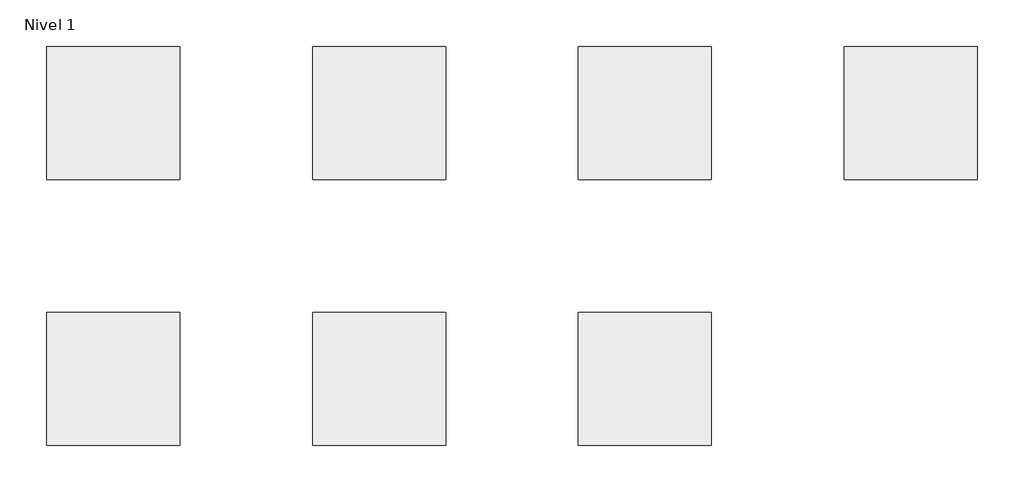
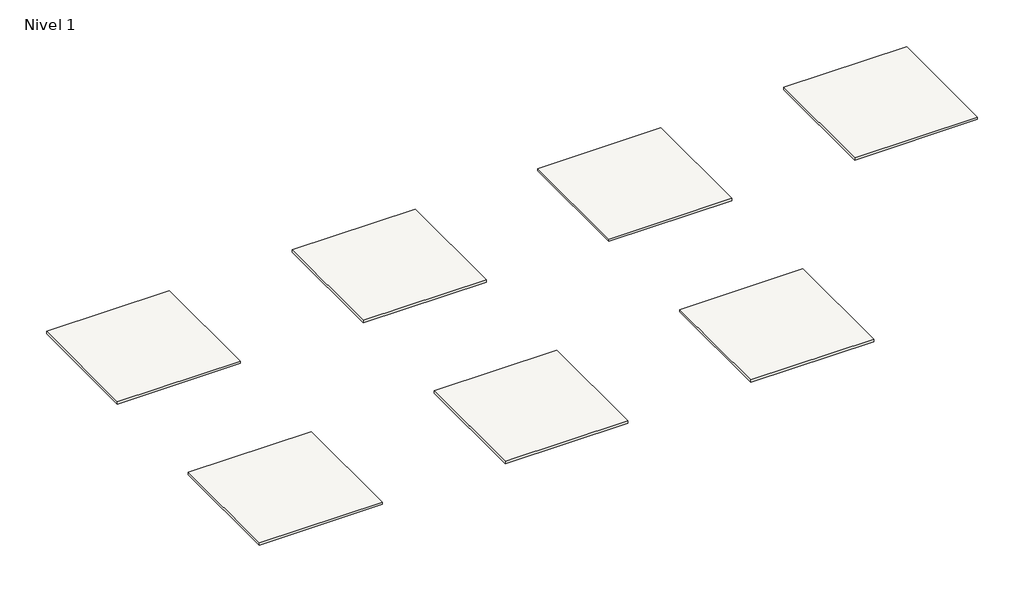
# One storey: 7 slabs.
"""IFC4 building model written with IfcOpenShell, lengths in millimetres."""

from ifc_helpers import new_model, si_unit, frame, origin, place, context, project, spatial, polyline, outline, extrude, element, save

model = new_model("IFC4")

# Units and contexts
model_context = context("Model", 3, world=origin())
ifc_project = project(units=[si_unit("LENGTHUNIT", "METRE", prefix="MILLI")], contexts=[model_context])

# Site, building, storey
site = spatial("IfcSite", under=ifc_project)
building = spatial("IfcBuilding", under=site)
storey = spatial("IfcBuildingStorey", under=building, Name="Nivel 1", Elevation=0.0)

# Slabs
placement = place(None, origin())
element("IfcSlab", 1, ObjectType="Quebec Arena 60X60 Rec", at=placement, inside=storey, context=model_context, shape_type="SweptSolid", body=[
    extrude(outline(polyline([(0.0, 600.0), (600.0, 600.0), (600.0, 0.0), (0.0, 0.0), (0.0, 600.0)])), frame((0.0, 0.0, -12.0), z_axis=(0.0, 0.0, 1.0), x_axis=(1.0, 0.0, 0.0)), (0.0, 0.0, 1.0), 12.0),
])
element("IfcSlab", 2, ObjectType="Quebec Cemento 60X60 Rec", at=placement, inside=storey, context=model_context, shape_type="SweptSolid", body=[
    extrude(outline(polyline([(1200.0, 600.0), (1800.0, 600.0), (1800.0, 0.0), (1200.0, 0.0), (1200.0, 600.0)])), frame((0.0, 0.0, -12.0), z_axis=(0.0, 0.0, 1.0), x_axis=(1.0, 0.0, 0.0)), (0.0, 0.0, 1.0), 12.0),
])
element("IfcSlab", 3, ObjectType="Quebec Taupe 60X60 Rec", at=placement, inside=storey, context=model_context, shape_type="SweptSolid", body=[
    extrude(outline(polyline([(2400.0, 600.0), (3000.0, 600.0), (3000.0, 0.0), (2400.0, 0.0), (2400.0, 600.0)])), frame((0.0, 0.0, -12.0), z_axis=(0.0, 0.0, 1.0), x_axis=(1.0, 0.0, 0.0)), (0.0, 0.0, 1.0), 12.0),
])
element("IfcSlab", 4, ObjectType="Quebec Gris 60X60 Rec", at=placement, inside=storey, context=model_context, shape_type="SweptSolid", body=[
    extrude(outline(polyline([(3600.0, 600.0), (4200.0, 600.0), (4200.0, 0.0), (3600.0, 0.0), (3600.0, 600.0)])), frame((0.0, 0.0, -12.0), z_axis=(0.0, 0.0, 1.0), x_axis=(1.0, 0.0, 0.0)), (0.0, 0.0, 1.0), 12.0),
])
element("IfcSlab", 5, ObjectType="Quebec Antracita 60X60 Rec", at=placement, inside=storey, context=model_context, shape_type="SweptSolid", body=[
    extrude(outline(polyline([(0.0, -600.0), (600.0, -600.0), (600.0, -1200.0), (0.0, -1200.0), (0.0, -600.0)])), frame((0.0, 0.0, -12.0), z_axis=(0.0, 0.0, 1.0), x_axis=(1.0, 0.0, 0.0)), (0.0, 0.0, 1.0), 12.0),
])
element("IfcSlab", 6, ObjectType="Quebec Beige 60X60 Rec", at=placement, inside=storey, context=model_context, shape_type="SweptSolid", body=[
    extrude(outline(polyline([(1200.0, -600.0), (1800.0, -600.0), (1800.0, -1200.0), (1200.0, -1200.0), (1200.0, -600.0)])), frame((0.0, 0.0, -12.0), z_axis=(0.0, 0.0, 1.0), x_axis=(1.0, 0.0, 0.0)), (0.0, 0.0, 1.0), 12.0),
])
element("IfcSlab", 7, ObjectType="Quebec Negro 60X60 Rec", at=placement, inside=storey, context=model_context, shape_type="SweptSolid", body=[
    extrude(outline(polyline([(2400.0, -600.0), (3000.0, -600.0), (3000.0, -1200.0), (2400.0, -1200.0), (2400.0, -600.0)])), frame((0.0, 0.0, -12.0), z_axis=(0.0, 0.0, 1.0), x_axis=(1.0, 0.0, 0.0)), (0.0, 0.0, 1.0), 12.0),
])

save(model, "model.ifc")
